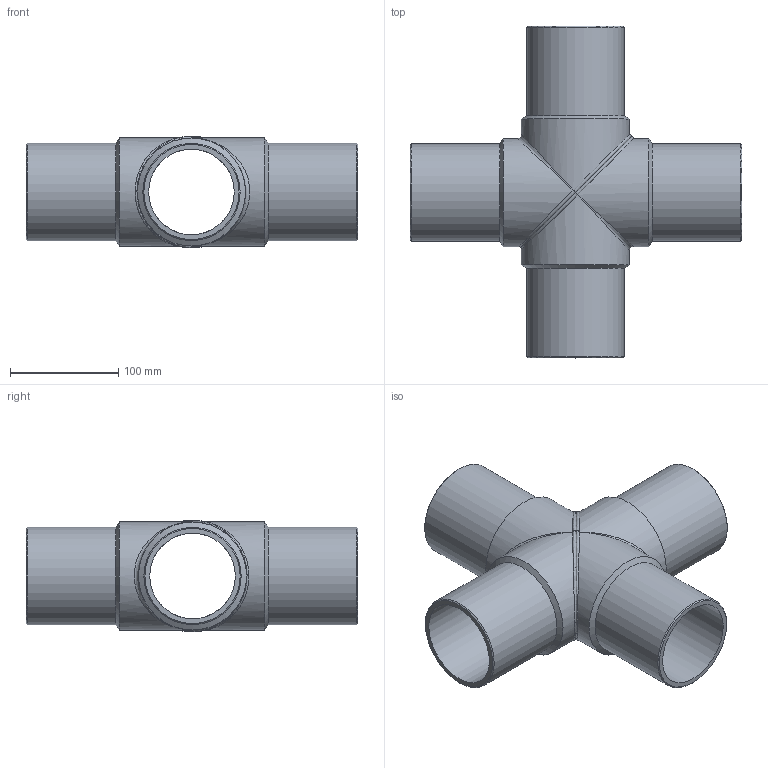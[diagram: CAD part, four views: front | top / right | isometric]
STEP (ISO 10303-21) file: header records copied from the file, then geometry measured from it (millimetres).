
FILE_DESCRIPTION(/* description */ ('Unknown'),/* implementation_level */ '2;1');
FILE_NAME(/* name */ 'CRP090B',/* time_stamp */ '2022-07-08T10:34:00+02:00',/* author */ ('Unknown'),/* organization */ ('Unknown'),/* preprocessor_version */ 'ST-DEVELOPER v18.102',/* originating_system */ 'Solid Edge',/* authorisation */ 'Unknown');
FILE_SCHEMA (('AUTOMOTIVE_DESIGN {1 0 10303 214 3 1 1}'));
Length unit declared in the file: millimetre
Products named in the file (3): CRP090B; CRP090B_mir
Assembly tree (2 placements, depth 2):
  CRP090B
    CRP090B
    CRP090B_mir
Bounding box: 307 x 307 x 102.99 mm (x, y, z)
Volume: 958948.7 mm3; surface area: 287310.8 mm2
Topology: 2 solids, 2 shells, 34 faces, 96 edges, 64 vertices
Faces by surface type: cylinder 12, bspline 8, cone 8, plane 6
Full cylindrical faces by diameter (mm): 79.2 x4, 90 x4, 100 x4
Entity records: 3353 total; most frequent: CARTESIAN_POINT 2585, ORIENTED_EDGE 132, DIRECTION 130, EDGE_CURVE 66, AXIS2_PLACEMENT_3D 65, EDGE_LOOP 60, FACE_BOUND 60, VERTEX_POINT 54
